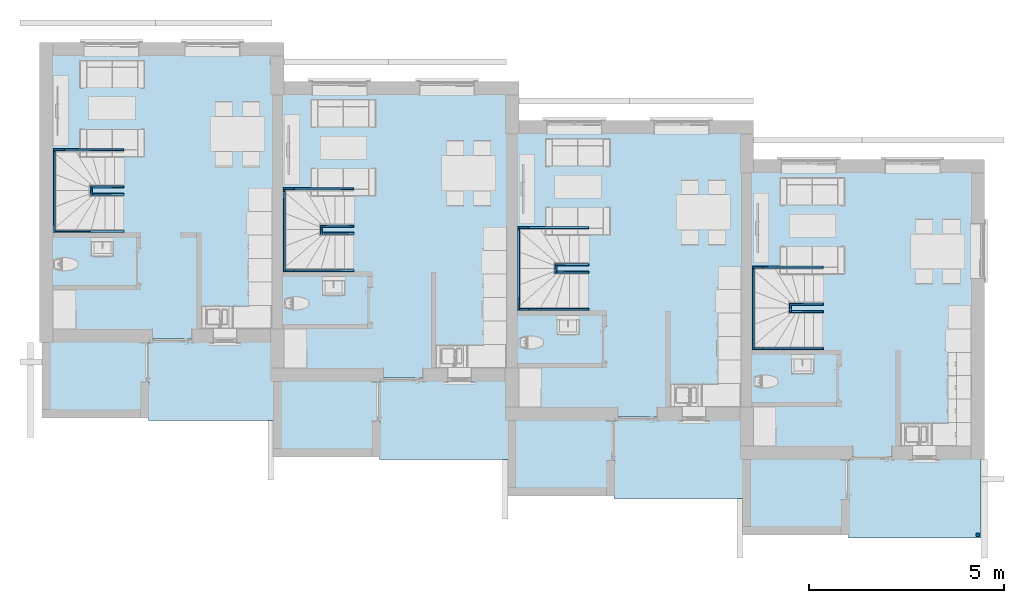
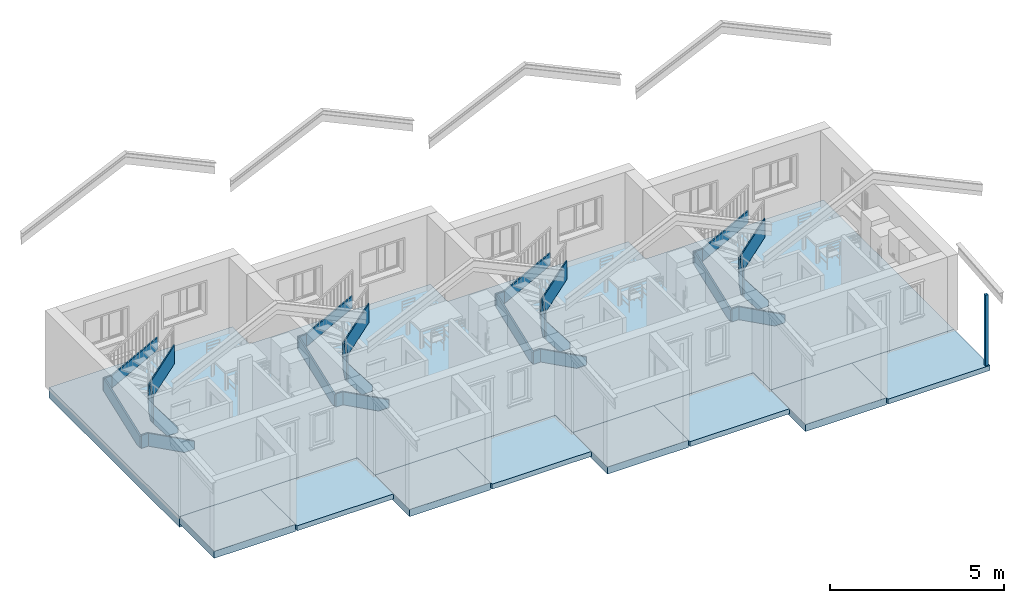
# One storey, part 1 of 65: 32 members, 9 slabs, 1 column, 4 elements without a shape of their own.
"""IFC2X3 building model written with IfcOpenShell, lengths in millimetres."""

import ifcopenshell
import ifcopenshell.guid

model = None  # the IFC model being written
_history = None  # IfcOwnerHistory: only IFC2X3 demands one
_inside = {}  # id of a spatial element -> (the spatial element, [elements in it])
_under = {}  # id of a project, library or spatial element -> (it, [spatial elements below it])
_declared = {}  # id of a project -> (the project, [libraries it declares])
_typed = {}  # id of a type object -> (the type object, [elements of that type])
_made_of = {}  # id of a material, layer set ... -> (it, [elements and type objects made of it])


def new_model(schema):
    """Start an empty IFC model of exactly this schema.

    Asked for "IFC4X3", IfcOpenShell would pick the latest addendum, in which some entities
    have other attributes; the version numbers below select the first issue.
    IFC2X3 requires an IfcOwnerHistory on every rooted entity: one is made here for all.
    """
    global model, _history
    if schema == "IFC4X3":
        model = ifcopenshell.file(schema_version=(4, 3, 0, 0))
    else:
        model = ifcopenshell.file(schema=schema)
    _inside.clear()
    _under.clear()
    _declared.clear()
    _typed.clear()
    _made_of.clear()
    _history = None
    if model.schema == "IFC2X3":
        org = make("IfcOrganization", Name="unknown")
        user = make(
            "IfcPersonAndOrganization",
            ThePerson=make("IfcPerson", FamilyName="unknown"),
            TheOrganization=org,
        )
        app = make(
            "IfcApplication",
            ApplicationDeveloper=org,
            Version="unknown",
            ApplicationFullName="unknown",
            ApplicationIdentifier="unknown",
        )
        _history = make(
            "IfcOwnerHistory",
            OwningUser=user,
            OwningApplication=app,
            ChangeAction="ADDED",
            CreationDate=0,
        )
    return model


def make(cls, **values):
    """One entity of the class cls with the attributes given. An attribute that is None is left unset."""
    return model.create_entity(
        cls, **{name: value for name, value in values.items() if value is not None}
    )


def entity(cls, *values):
    """Any entity or typed value of the class cls, its attributes in the order of the schema. None: left unset."""
    e = model.create_entity(cls)
    for i, value in enumerate(values):
        if value is not None:
            e[i] = value
    return e


def rooted(cls, **values):
    """An entity with a GlobalId (a new one), such as an element, a storey or a relation."""
    return make(cls, GlobalId=ifcopenshell.guid.new(), OwnerHistory=_history, **values)


def si_unit(unit_type, name, prefix=None):
    """IfcSIUnit, for example si_unit("LENGTHUNIT", "METRE", prefix="MILLI")."""
    return make("IfcSIUnit", UnitType=unit_type, Prefix=prefix, Name=name)


def converted_unit(unit_type, name, factor, base, dimensions=None, offset=None):
    """IfcConversionBasedUnit, such as the inch: factor (a typed value) times the base unit."""
    return make(
        "IfcConversionBasedUnit"
        if offset is None
        else "IfcConversionBasedUnitWithOffset",
        ConversionOffset=offset,
        Dimensions=None
        if dimensions is None
        else entity("IfcDimensionalExponents", *dimensions),
        UnitType=unit_type,
        Name=name,
        ConversionFactor=make(
            "IfcMeasureWithUnit", ValueComponent=factor, UnitComponent=base
        ),
    )


def assignment(units):
    """IfcUnitAssignment: the units of a project."""
    return None if units is None else make("IfcUnitAssignment", Units=units)


def point(xyz):
    """IfcCartesianPoint."""
    return None if xyz is None else make("IfcCartesianPoint", Coordinates=xyz)


def direction(xyz):
    """IfcDirection."""
    return None if xyz is None else make("IfcDirection", DirectionRatios=xyz)


def frame(location, z_axis=None, x_axis=None):
    """IfcAxis2Placement3D, a coordinate frame: its origin and axes. An axis left out is left unset."""
    return make(
        "IfcAxis2Placement3D",
        Location=point(location),
        Axis=direction(z_axis),
        RefDirection=direction(x_axis),
    )


def frame_2d(location, x_axis=None):
    """IfcAxis2Placement2D, a coordinate frame in the plane: its origin and x axis."""
    return make(
        "IfcAxis2Placement2D", Location=point(location), RefDirection=direction(x_axis)
    )


def origin():
    """The frame at (0, 0, 0) with its axes left unset."""
    return frame((0.0, 0.0, 0.0))


def place(relative_to, where):
    """IfcLocalPlacement: puts the frame where relative to a parent placement (None: the world)."""
    return make(
        "IfcLocalPlacement", PlacementRelTo=relative_to, RelativePlacement=where
    )


def context(
    kind, dimensions, precision=None, world=None, true_north=None, identifier=None
):
    """IfcGeometricRepresentationContext, for example the 3D "Model" context."""
    return make(
        "IfcGeometricRepresentationContext",
        ContextIdentifier=identifier,
        ContextType=kind,
        CoordinateSpaceDimension=dimensions,
        Precision=precision,
        WorldCoordinateSystem=world,
        TrueNorth=true_north,
    )


def subcontext(parent, identifier, kind, view, scale=None):
    """IfcGeometricRepresentationSubContext, for example "Body" below "Model"."""
    return make(
        "IfcGeometricRepresentationSubContext",
        ContextIdentifier=identifier,
        ContextType=kind,
        ParentContext=parent,
        TargetScale=scale,
        TargetView=view,
    )


def project(units=None, contexts=None):
    """IfcProject with its units and contexts."""
    return rooted(
        "IfcProject",
        Name="project",
        RepresentationContexts=contexts,
        UnitsInContext=assignment(units),
    )


def spatial(cls, under=None, at=None, **own):
    """A site, building, storey or space (cls), placed at a placement, below another one or the project."""
    s = rooted(cls, ObjectPlacement=at, **own)
    if under is not None:
        _under.setdefault(under.id(), (under, []))[1].append(s)
    return s


def polyline(points):
    """IfcPolyline through the points."""
    return make("IfcPolyline", Points=[point(p) for p in points])


def profile(cls, at=None, kind="AREA", **sizes):
    """A parametric profile (cls). Its sizes go by their IFC names, for example OverallWidth=200.0."""
    return make(cls, ProfileType=kind, Position=at, **sizes)


def rectangle(**sizes):
    """IfcRectangleProfileDef."""
    return profile("IfcRectangleProfileDef", **sizes)


def outline(outer, holes=None, kind="AREA"):
    """IfcArbitraryClosedProfileDef: a profile drawn as a closed curve; with holes, ...WithVoids."""
    if holes is None:
        return make("IfcArbitraryClosedProfileDef", ProfileType=kind, OuterCurve=outer)
    return make(
        "IfcArbitraryProfileDefWithVoids",
        ProfileType=kind,
        OuterCurve=outer,
        InnerCurves=holes,
    )


def extrude(swept, where, along, depth):
    """IfcExtrudedAreaSolid: the profile swept, set in the frame where, extruded along a direction by depth."""
    return make(
        "IfcExtrudedAreaSolid",
        SweptArea=swept,
        Position=where,
        ExtrudedDirection=direction(along),
        Depth=depth,
    )


def shape(context_of_items, identifier, shape_type, items):
    """IfcShapeRepresentation: the items that make up one representation, for example the "Body"."""
    return make(
        "IfcShapeRepresentation",
        ContextOfItems=context_of_items,
        RepresentationIdentifier=identifier,
        RepresentationType=shape_type,
        Items=items,
    )


def source(mapping_origin, context_of_items, identifier, shape_type, items):
    """IfcRepresentationMap: a shape defined once, which mapped items show again and again."""
    return make(
        "IfcRepresentationMap",
        MappingOrigin=mapping_origin,
        MappedRepresentation=shape(context_of_items, identifier, shape_type, items),
    )


def transform(
    local_origin,
    x_axis=None,
    y_axis=None,
    z_axis=None,
    scale=None,
    scale2=None,
    scale3=None,
    uniform=True,
):
    """IfcCartesianTransformationOperator3D, or its non-uniform kind. x_axis, y_axis, z_axis: its Axis1, 2, 3."""
    if uniform:
        return make(
            "IfcCartesianTransformationOperator3D",
            Axis1=direction(x_axis),
            Axis2=direction(y_axis),
            LocalOrigin=point(local_origin),
            Scale=scale,
            Axis3=direction(z_axis),
        )
    return make(
        "IfcCartesianTransformationOperator3DnonUniform",
        Axis1=direction(x_axis),
        Axis2=direction(y_axis),
        LocalOrigin=point(local_origin),
        Scale=scale,
        Axis3=direction(z_axis),
        Scale2=scale2,
        Scale3=scale3,
    )


def mapped(mapping_source, mapping_target):
    """IfcMappedItem: shows the shape of a source again, moved by a transform."""
    return make(
        "IfcMappedItem", MappingSource=mapping_source, MappingTarget=mapping_target
    )


def material(Name=None, Category=None):
    """IfcMaterial."""
    return make("IfcMaterial", Name=Name, Category=Category)


def layer(
    of_material, thickness, ventilated=None, Name=None, Category=None, Priority=None
):
    """IfcMaterialLayer: one layer of a wall or slab, of a material (None: an air gap)."""
    return make(
        "IfcMaterialLayer",
        Material=of_material,
        LayerThickness=thickness,
        IsVentilated=ventilated,
        Name=Name,
        Category=Category,
        Priority=Priority,
    )


def layer_set(layers, Name=None):
    """IfcMaterialLayerSet."""
    return make("IfcMaterialLayerSet", MaterialLayers=layers, LayerSetName=Name)


def layer_usage(for_layer_set, set_direction, sense, offset, extent=None):
    """IfcMaterialLayerSetUsage: how a layer set lies in its element."""
    return make(
        "IfcMaterialLayerSetUsage",
        ForLayerSet=for_layer_set,
        LayerSetDirection=set_direction,
        DirectionSense=sense,
        OffsetFromReferenceLine=offset,
        ReferenceExtent=extent,
    )


def made_of(thing, what):
    """Note that an element or type object is made of a material, layer set ...; save() writes the relation."""
    if what is not None:
        _made_of.setdefault(what.id(), (what, []))[1].append(thing)
    return thing


def type_object(cls, material=None, **own):
    """A type object (cls), such as IfcWallType, which elements share."""
    return made_of(rooted(cls, **own), material)


def type_shapes(of_type, sources):
    """Give a type object the sources (RepresentationMaps) that its elements show as mapped items."""
    of_type.RepresentationMaps = sources


def element(
    cls,
    number,
    at=None,
    inside=None,
    cuts=None,
    type_object=None,
    material=None,
    context=None,
    identifier="Body",
    shape_type=None,
    held_by="IfcProductDefinitionShape",
    body=None,
    shapes=None,
    **own,
):
    """One element of the class cls, such as IfcWall. Its Tag is "e" and its number.

    at: its placement. inside: the storey or other place that contains it. cuts: it is an
    opening in that element (IfcRelVoidsElement). A single representation is given by context,
    identifier, shape_type and body (its items); several are given by shapes. held_by: the class
    of the entity that holds the representations. save() writes the other relations.
    """
    e = rooted(cls, Tag="e%d" % number, ObjectPlacement=at, **own)
    if body is not None:
        shapes = [shape(context, identifier, shape_type, body)]
    if shapes is not None:
        e.Representation = make(held_by, Representations=shapes)
    if inside is not None:
        _inside.setdefault(inside.id(), (inside, []))[1].append(e)
    if cuts is not None:
        rooted(
            "IfcRelVoidsElement", RelatingBuildingElement=cuts, RelatedOpeningElement=e
        )
    if type_object is not None:
        _typed.setdefault(type_object.id(), (type_object, []))[1].append(e)
    return made_of(e, material)


def aggregate(whole, parts):
    """IfcRelAggregates: a whole, such as a stair, and the parts it consists of."""
    return rooted("IfcRelAggregates", RelatingObject=whole, RelatedObjects=parts)


def save(model, path):
    """Write the relations noted so far, then the file.

    IfcRelAggregates (storeys below a building ...), IfcRelContainedInSpatialStructure (elements
    in a storey), IfcRelDefinesByType, IfcRelAssociatesMaterial and IfcRelDeclares: one each for
    every whole, place, type object, material and project.
    """
    for whole, parts in _under.values():
        aggregate(whole, parts)
    for where, things in _inside.values():
        rooted(
            "IfcRelContainedInSpatialStructure",
            RelatedElements=things,
            RelatingStructure=where,
        )
    for kind, things in _typed.values():
        rooted("IfcRelDefinesByType", RelatedObjects=things, RelatingType=kind)
    for what, things in _made_of.values():
        rooted("IfcRelAssociatesMaterial", RelatedObjects=things, RelatingMaterial=what)
    for by, libraries in _declared.values():
        rooted("IfcRelDeclares", RelatingContext=by, RelatedDefinitions=libraries)
    model.write(path)


model = new_model("IFC2X3")

# Units and contexts
model_context = context("Model", 3, precision=0.01, world=origin(), true_north=direction((0.0, 1.0)))
body_context = subcontext(model_context, "Body", "Model", "MODEL_VIEW")
ifc_project = project(units=[si_unit("LENGTHUNIT", "METRE", prefix="MILLI"), si_unit("AREAUNIT", "SQUARE_METRE"), si_unit("VOLUMEUNIT", "CUBIC_METRE"), converted_unit("PLANEANGLEUNIT", "DEGREE", entity("IfcPlaneAngleMeasure", 0.017453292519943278), si_unit("PLANEANGLEUNIT", "RADIAN"), dimensions=[0, 0, 0, 0, 0, 0, 0])], contexts=[model_context])

# Site, building, storey
site_placement = place(None, origin())
site = spatial("IfcSite", under=ifc_project, at=site_placement, Name="Default", CompositionType="ELEMENT")
building_placement = place(site_placement, origin())
building = spatial("IfcBuilding", under=site, at=building_placement, CompositionType="ELEMENT")
storey_placement = place(building_placement, origin())
storey = spatial("IfcBuildingStorey", under=building, at=storey_placement, Name="Et. 1", CompositionType="ELEMENT", Elevation=0.0)

# Column
ifc_material_1 = material(Name="Limtre - GL30c")
column_type = type_object("IfcColumnType", Name="Limtre-søyle:Limtre 90x90", PredefinedType="COLUMN", material=ifc_material_1)
shared_shape = source(origin(), body_context, "Body", "SweptSolid", [
    extrude(rectangle(XDim=90.0000000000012, YDim=90.00000000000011, at=frame_2d((-2.1671553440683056e-12, 5.400124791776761e-13), x_axis=(1.0, 0.0))), frame((34092.00958675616, 6486.180957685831, 0.0), z_axis=(0.0, 0.0, 1.0), x_axis=(-1.0, 0.0, 0.0)), (0.0, 0.0, 1.0), 2485.549410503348),
])
type_shapes(column_type, [shared_shape])
column_placement = place(storey_placement, origin())
element("IfcColumn", 1, at=column_placement, inside=storey, type_object=column_type, material=ifc_material_1, Name="Limtre-søyle:Limtre 90x90", context=body_context, shape_type="MappedRepresentation", body=[
    mapped(shared_shape, transform((0.0, 0.0, 0.0), scale=1.0)),
])

# Stair, members
type_product = type_object("IfcTypeProduct", Name="Assembled Stair:Tretrapp - Åpne trinn m/ vanger")
stair_1_placement = place(storey_placement, origin())
stair_1 = element("IfcStair", 2, at=stair_1_placement, inside=storey, type_object=type_product, Name="Assembled Stair:Stair", ShapeType="NOTDEFINED")
ifc_material_2 = material(Name="Focus - Tre")
member_type = type_object("IfcMemberType", Name="Stringer:Vange - Tre 50mm bredde", PredefinedType="STRINGER")
member_1_placement = place(stair_1_placement, origin())
member_1 = element("IfcMember", 3, at=member_1_placement, type_object=member_type, material=ifc_material_2, Name="Assembled Stair:Stair:1057884 Stringer 1", context=body_context, shape_type="SweptSolid", body=[
    extrude(outline(polyline([(-679.0776310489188, -400.4234898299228), (-341.72465110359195, -400.4234898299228), (849.9399566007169, 237.2278547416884), (849.9399566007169, 690.8928373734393), (-679.0776310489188, -127.27371245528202), (-679.0776310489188, -400.4234898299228)])), frame((11569.284130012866, 14220.151787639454, 400.4234898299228), z_axis=(0.0, 1.0, 0.0), x_axis=(-1.0, 0.0, 0.0)), (0.0, 0.0, 1.0), 49.99999999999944),
])
member_2_placement = place(stair_1_placement, origin())
member_2 = element("IfcMember", 4, at=member_2_placement, type_object=member_type, material=ifc_material_2, Name="Assembled Stair:Stair:1057884 Stringer 2", context=body_context, shape_type="SweptSolid", body=[
    extrude(rectangle(XDim=231.47571750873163, YDim=49.99999999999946, at=frame_2d((0.0, -1.0835776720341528e-12), x_axis=(1.0, 0.0))), frame((10603.606314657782, 14245.151787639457, 637.6513445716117), z_axis=(0.0, 0.0, 1.0), x_axis=(-1.0, 0.0, 0.0)), (0.0, 0.0, 1.0), 453.66498263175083),
])
member_3_placement = place(stair_1_placement, origin())
member_3 = element("IfcMember", 5, at=member_3_placement, type_object=member_type, material=ifc_material_2, Name="Assembled Stair:Stair:1057884 Stringer 3", context=body_context, shape_type="SweptSolid", body=[
    extrude(outline(polyline([(-1071.253457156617, -566.1425631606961), (-878.205088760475, -566.1425631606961), (1018.7465428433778, 145.50397643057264), (1018.7465428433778, 585.8406742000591), (983.2189173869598, 585.8406742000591), (-1071.253457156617, -184.90019850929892), (-1071.253457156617, -566.1425631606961)])), frame((10437.868455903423, 15291.405244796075, 1257.4588903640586), z_axis=(1.0, 0.0, 0.0), x_axis=(0.0, 1.0, 0.0)), (0.0, 0.0, 1.0), 49.99999999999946),
])
member_4_placement = place(stair_1_placement, origin())
member_4 = element("IfcMember", 6, at=member_4_placement, type_object=member_type, material=ifc_material_2, Name="Assembled Stair:Stair:1057884 Stringer 4", context=body_context, shape_type="SweptSolid", body=[
    extrude(rectangle(XDim=281.4757175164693, YDim=49.99999999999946, at=frame_2d((0.0, -1.0835776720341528e-12), x_axis=(1.0, 0.0))), frame((10578.606314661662, 16335.151787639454, 1416.0779258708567)), (0.0, 0.0, 1.0), 427.221638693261),
])
member_5_placement = place(stair_1_placement, origin())
member_5 = element("IfcMember", 7, at=member_5_placement, type_object=member_type, material=ifc_material_2, Name="Assembled Stair:Stair:1057884 Stringer 5", context=body_context, shape_type="SweptSolid", body=[
    extrude(outline(polyline([(-766.2965070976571, -188.34234735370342), (967.8578360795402, -188.34234735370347), (766.2965070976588, 188.34234735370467), (-967.8578360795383, 188.34234735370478), (-766.2965070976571, -188.34234735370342)])), frame((11483.852967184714, 16310.151787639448, 2038.7720200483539), z_axis=(0.0, 1.0, 0.0), x_axis=(0.8817079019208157, 0.0, 0.471795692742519)), (0.0, 0.0, 1.0), 50.00000000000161),
])
member_6_placement = place(stair_1_placement, origin())
member_6 = element("IfcMember", 8, at=member_6_placement, type_object=member_type, material=ifc_material_2, Name="Assembled Stair:Stair:1057884 Stringer 6", context=body_context, shape_type="SweptSolid", body=[
    extrude(outline(polyline([(-394.2069615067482, -408.97376314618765), (-44.15876428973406, -408.97376314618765), (416.2863436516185, 186.04004777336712), (416.2863436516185, 839.6369122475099), (-394.2069615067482, -207.72943372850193), (-394.2069615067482, -408.97376314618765)])), frame((11854.154799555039, 15170.151787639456, 408.97376314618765), z_axis=(0.0, 1.0, 0.0), x_axis=(-1.0, 0.0, 0.0)), (0.0, 0.0, 1.0), 49.99999999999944),
])
member_7_placement = place(stair_1_placement, origin())
member_7 = element("IfcMember", 9, at=member_7_placement, type_object=member_type, material=ifc_material_2, Name="Assembled Stair:Stair:1057884 Stringer 7", context=body_context, shape_type="SweptSolid", body=[
    extrude(outline(polyline([(-99.5318885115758, -586.1110865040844), (-15.956236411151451, -586.1110865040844), (90.46811148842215, -321.9224969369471), (90.46811148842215, 608.6110737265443), (34.08379045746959, 608.6110737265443), (-99.5318885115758, 276.9225224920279), (-99.5318885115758, -586.1110865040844)])), frame((11387.868455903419, 15269.683676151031, 1245.7377905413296), z_axis=(1.0, 0.0, 0.0), x_axis=(0.0, 1.0, 0.0)), (0.0, 0.0, 1.0), 49.99999999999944),
])
member_8_placement = place(stair_1_placement, origin())
member_8 = element("IfcMember", 10, at=member_8_placement, type_object=member_type, material=ifc_material_2, Name="Assembled Stair:Stair:1057884 Stringer 8", context=body_context, shape_type="SweptSolid", body=[
    extrude(outline(polyline([(-444.5680851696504, -200.0), (961.47123022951, -200.0), (444.56808516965, 200.0), (-961.4712302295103, 200.0), (-444.5680851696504, -200.0)])), frame((11818.115108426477, 15360.151787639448, 2083.540051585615), z_axis=(0.0, 1.0, 0.0), x_axis=(0.6119980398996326, 0.0, 0.7908592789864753)), (0.0, 0.0, 1.0), 49.99999999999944),
])
aggregate(stair_1, [member_1, member_2, member_3, member_4, member_5, member_6, member_7, member_8])

stair_2_placement = place(storey_placement, origin())
stair_2 = element("IfcStair", 11, at=stair_2_placement, inside=storey, type_object=type_product, Name="Assembled Stair:Stair", ShapeType="NOTDEFINED")
member_9_placement = place(stair_2_placement, origin())
member_9 = element("IfcMember", 12, at=member_9_placement, type_object=member_type, material=ifc_material_2, Name="Assembled Stair:Stair:1075790 Stringer 1", context=body_context, shape_type="SweptSolid", body=[
    extrude(outline(polyline([(-679.0776310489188, -400.42348982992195), (-341.72465110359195, -400.42348982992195), (849.939956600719, 237.22785474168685), (849.939956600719, 690.8928373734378), (-679.0776310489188, -127.27371245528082), (-679.0776310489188, -400.42348982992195)])), frame((17455.47308136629, 13220.151787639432, 400.42348982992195), z_axis=(0.0, 1.0, 0.0), x_axis=(-1.0, 0.0, 0.0)), (0.0, 0.0, 1.0), 49.99999999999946),
])
member_10_placement = place(stair_2_placement, origin())
member_10 = element("IfcMember", 13, at=member_10_placement, type_object=member_type, material=ifc_material_2, Name="Assembled Stair:Stair:1075790 Stringer 2", context=body_context, shape_type="SweptSolid", body=[
    extrude(rectangle(XDim=231.47571750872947, YDim=49.99999999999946, at=frame_2d((-1.0800249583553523e-12, -1.0835776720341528e-12), x_axis=(1.0, 0.0))), frame((16489.795266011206, 13245.151787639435, 637.651344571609), z_axis=(0.0, 0.0, 1.0), x_axis=(-1.0, 0.0, 0.0)), (0.0, 0.0, 1.0), 453.6649826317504),
])
member_11_placement = place(stair_2_placement, origin())
member_11 = element("IfcMember", 14, at=member_11_placement, type_object=member_type, material=ifc_material_2, Name="Assembled Stair:Stair:1075790 Stringer 3", context=body_context, shape_type="SweptSolid", body=[
    extrude(outline(polyline([(-1071.253457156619, -566.142563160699), (-878.2050887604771, -566.142563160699), (1018.7465428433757, 145.50397643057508), (1018.7465428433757, 585.8406742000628), (983.218917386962, 585.8406742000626), (-1071.253457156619, -184.9001985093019), (-1071.253457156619, -566.142563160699)])), frame((16324.057407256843, 14291.405244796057, 1257.4588903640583), z_axis=(1.0, 0.0, 0.0), x_axis=(0.0, 1.0, 0.0)), (0.0, 0.0, 1.0), 49.99999999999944),
])
member_12_placement = place(stair_2_placement, origin())
member_12 = element("IfcMember", 15, at=member_12_placement, type_object=member_type, material=ifc_material_2, Name="Assembled Stair:Stair:1075790 Stringer 4", context=body_context, shape_type="SweptSolid", body=[
    extrude(rectangle(XDim=281.4757175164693, YDim=49.99999999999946, at=frame_2d((0.0, 1.0835776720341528e-12), x_axis=(1.0, 0.0))), frame((16464.795266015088, 15335.15178763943, 1416.0779258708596)), (0.0, 0.0, 1.0), 427.2216386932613),
])
member_13_placement = place(stair_2_placement, origin())
member_13 = element("IfcMember", 16, at=member_13_placement, type_object=member_type, material=ifc_material_2, Name="Assembled Stair:Stair:1075790 Stringer 5", context=body_context, shape_type="SweptSolid", body=[
    extrude(outline(polyline([(-766.2965070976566, -188.34234735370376), (967.8578360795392, -188.34234735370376), (766.2965070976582, 188.34234735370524), (-967.8578360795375, 188.34234735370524), (-766.2965070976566, -188.34234735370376)])), frame((17370.04191853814, 15310.15178763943, 2038.7720200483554), z_axis=(0.0, 1.0, 0.0), x_axis=(0.8817079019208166, 0.0, 0.47179569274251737)), (0.0, 0.0, 1.0), 49.99999999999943),
])
member_14_placement = place(stair_2_placement, origin())
member_14 = element("IfcMember", 17, at=member_14_placement, type_object=member_type, material=ifc_material_2, Name="Assembled Stair:Stair:1075790 Stringer 6", context=body_context, shape_type="SweptSolid", body=[
    extrude(outline(polyline([(-394.2069615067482, -408.9737631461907), (-44.15876428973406, -408.9737631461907), (416.2863436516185, 186.04004777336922), (416.2863436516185, 839.636912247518), (-394.2069615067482, -207.72943372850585), (-394.2069615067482, -408.9737631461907)])), frame((17740.343750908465, 14170.15178763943, 408.9737631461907), z_axis=(0.0, 1.0, 0.0), x_axis=(-1.0, 0.0, 0.0)), (0.0, 0.0, 1.0), 49.99999999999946),
])
member_15_placement = place(stair_2_placement, origin())
member_15 = element("IfcMember", 18, at=member_15_placement, type_object=member_type, material=ifc_material_2, Name="Assembled Stair:Stair:1075790 Stringer 7", context=body_context, shape_type="SweptSolid", body=[
    extrude(outline(polyline([(-99.5318885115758, -586.1110865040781), (-15.956236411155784, -586.1110865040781), (90.46811148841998, -321.9224969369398), (90.46811148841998, 608.6110737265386), (34.08379045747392, 608.6110737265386), (-99.5318885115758, 276.92252249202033), (-99.5318885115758, -586.1110865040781)])), frame((17274.057407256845, 14269.68367615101, 1245.7377905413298), z_axis=(1.0, 0.0, 0.0), x_axis=(0.0, 1.0, 0.0)), (0.0, 0.0, 1.0), 49.99999999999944),
])
member_16_placement = place(stair_2_placement, origin())
member_16 = element("IfcMember", 19, at=member_16_placement, type_object=member_type, material=ifc_material_2, Name="Assembled Stair:Stair:1075790 Stringer 8", context=body_context, shape_type="SweptSolid", body=[
    extrude(outline(polyline([(-444.5680851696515, -200.0), (961.4712302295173, -200.0), (444.5680851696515, 200.0), (-961.4712302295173, 200.0), (-444.5680851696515, -200.0)])), frame((17704.3040597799, 14360.151787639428, 2083.540051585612), z_axis=(0.0, 1.0, 0.0), x_axis=(0.6119980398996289, 0.0, 0.7908592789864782)), (0.0, 0.0, 1.0), 49.99999999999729),
])
aggregate(stair_2, [member_9, member_10, member_11, member_12, member_13, member_14, member_15, member_16])

stair_3_placement = place(storey_placement, origin())
stair_3 = element("IfcStair", 20, at=stair_3_placement, inside=storey, type_object=type_product, Name="Assembled Stair:Stair", ShapeType="NOTDEFINED")
member_17_placement = place(stair_3_placement, origin())
member_17 = element("IfcMember", 21, at=member_17_placement, type_object=member_type, material=ifc_material_2, Name="Assembled Stair:Stair:1075997 Stringer 1", context=body_context, shape_type="SweptSolid", body=[
    extrude(outline(polyline([(-679.0776310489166, -400.4234898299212), (-341.7246511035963, -400.4234898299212), (849.9399566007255, 237.22785474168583), (849.9399566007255, 690.8928373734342), (-679.0776310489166, -127.27371245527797), (-679.0776310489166, -400.4234898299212)])), frame((23456.065132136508, 12231.445077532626, 400.4234898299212), z_axis=(0.0, 1.0, 0.0), x_axis=(-1.0, 0.0, 0.0)), (0.0, 0.0, 1.0), 49.99999999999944),
])
member_18_placement = place(stair_3_placement, origin())
member_18 = element("IfcMember", 22, at=member_18_placement, type_object=member_type, material=ifc_material_2, Name="Assembled Stair:Stair:1075997 Stringer 2", context=body_context, shape_type="SweptSolid", body=[
    extrude(rectangle(XDim=231.475717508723, YDim=49.99999999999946, at=frame_2d((4.334310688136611e-12, -1.0835776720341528e-12), x_axis=(1.0, 0.0))), frame((22490.38731678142, 12256.445077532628, 637.6513445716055), z_axis=(0.0, 0.0, 1.0), x_axis=(-1.0, 0.0, 0.0)), (0.0, 0.0, 1.0), 453.6649826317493),
])
member_19_placement = place(stair_3_placement, origin())
member_19 = element("IfcMember", 23, at=member_19_placement, type_object=member_type, material=ifc_material_2, Name="Assembled Stair:Stair:1075997 Stringer 3", context=body_context, shape_type="SweptSolid", body=[
    extrude(outline(polyline([(-1071.253457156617, -566.1425631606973), (-878.2050887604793, -566.1425631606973), (1018.7465428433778, 145.50397643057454), (1018.7465428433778, 585.8406742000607), (983.2189173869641, 585.8406742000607), (-1071.253457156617, -184.90019850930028), (-1071.253457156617, -566.1425631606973)])), frame((22324.64945802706, 13302.698534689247, 1257.4588903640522), z_axis=(1.0, 0.0, 0.0), x_axis=(0.0, 1.0, 0.0)), (0.0, 0.0, 1.0), 50.00000000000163),
])
member_20_placement = place(stair_3_placement, origin())
member_20 = element("IfcMember", 24, at=member_20_placement, type_object=member_type, material=ifc_material_2, Name="Assembled Stair:Stair:1075997 Stringer 4", context=body_context, shape_type="SweptSolid", body=[
    extrude(rectangle(XDim=281.4757175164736, YDim=49.99999999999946, at=frame_2d((-2.1600499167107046e-12, -1.0835776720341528e-12), x_axis=(1.0, 0.0))), frame((22465.387316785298, 14346.445077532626, 1416.077925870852)), (0.0, 0.0, 1.0), 427.221638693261),
])
member_21_placement = place(stair_3_placement, origin())
member_21 = element("IfcMember", 25, at=member_21_placement, type_object=member_type, material=ifc_material_2, Name="Assembled Stair:Stair:1075997 Stringer 5", context=body_context, shape_type="SweptSolid", body=[
    extrude(outline(polyline([(-766.2965070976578, -188.34234735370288), (967.8578360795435, -188.34234735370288), (766.2965070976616, 188.3423473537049), (-967.8578360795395, 188.34234735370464), (-766.2965070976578, -188.34234735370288)])), frame((23370.63396930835, 14321.445077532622, 2038.7720200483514), z_axis=(0.0, 1.0, 0.0), x_axis=(0.8817079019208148, 0.0, 0.4717956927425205)), (0.0, 0.0, 1.0), 49.99999999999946),
])
member_22_placement = place(stair_3_placement, origin())
member_22 = element("IfcMember", 26, at=member_22_placement, type_object=member_type, material=ifc_material_2, Name="Assembled Stair:Stair:1075997 Stringer 6", context=body_context, shape_type="SweptSolid", body=[
    extrude(outline(polyline([(-394.2069615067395, -408.97376314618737), (-44.158764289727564, -408.97376314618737), (416.2863436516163, 186.04004777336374), (416.2863436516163, 839.6369122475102), (-394.2069615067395, -207.72943372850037), (-394.2069615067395, -408.97376314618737)])), frame((23740.935801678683, 13181.445077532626, 408.97376314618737), z_axis=(0.0, 1.0, 0.0), x_axis=(-1.0, 0.0, 0.0)), (0.0, 0.0, 1.0), 49.99999999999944),
])
member_23_placement = place(stair_3_placement, origin())
member_23 = element("IfcMember", 27, at=member_23_placement, type_object=member_type, material=ifc_material_2, Name="Assembled Stair:Stair:1075997 Stringer 7", context=body_context, shape_type="SweptSolid", body=[
    extrude(outline(polyline([(-99.53188851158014, -586.1110865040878), (-15.956236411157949, -586.1110865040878), (90.46811148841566, -321.922496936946), (90.46811148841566, 608.6110737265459), (34.08379045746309, 608.6110737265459), (-99.53188851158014, 276.92252249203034), (-99.53188851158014, -586.1110865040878)])), frame((23274.649458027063, 13280.976966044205, 1245.7377905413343), z_axis=(1.0, 0.0, 0.0), x_axis=(0.0, 1.0, 0.0)), (0.0, 0.0, 1.0), 50.00000000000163),
])
member_24_placement = place(stair_3_placement, origin())
member_24 = element("IfcMember", 28, at=member_24_placement, type_object=member_type, material=ifc_material_2, Name="Assembled Stair:Stair:1075997 Stringer 8", context=body_context, shape_type="SweptSolid", body=[
    extrude(outline(polyline([(-444.5680851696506, -200.0), (961.4712302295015, -200.0), (444.5680851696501, 200.0), (-961.4712302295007, 200.0), (-444.5680851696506, -200.0)])), frame((23704.89611055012, 13371.445077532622, 2083.540051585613), z_axis=(0.0, 1.0, 0.0), x_axis=(0.6119980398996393, 0.0, 0.7908592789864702)), (0.0, 0.0, 1.0), 49.999999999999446),
])
aggregate(stair_3, [member_17, member_18, member_19, member_20, member_21, member_22, member_23, member_24])

stair_4_placement = place(storey_placement, origin())
stair_4 = element("IfcStair", 29, at=stair_4_placement, inside=storey, type_object=type_product, Name="Assembled Stair:Stair", ShapeType="NOTDEFINED")
member_25_placement = place(stair_4_placement, origin())
member_25 = element("IfcMember", 30, at=member_25_placement, type_object=member_type, material=ifc_material_2, Name="Assembled Stair:Stair:1076204 Stringer 1", context=body_context, shape_type="SweptSolid", body=[
    extrude(outline(polyline([(-679.0776310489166, -400.4234898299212), (-341.72465110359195, -400.4234898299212), (849.9399566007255, 237.22785474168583), (849.9399566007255, 690.8928373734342), (-679.0776310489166, -127.27371245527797), (-679.0776310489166, -400.4234898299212)])), frame((29456.284130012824, 11220.151787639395, 400.4234898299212), z_axis=(0.0, 1.0, 0.0), x_axis=(-1.0, 0.0, 0.0)), (0.0, 0.0, 1.0), 49.99999999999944),
])
member_26_placement = place(stair_4_placement, origin())
member_26 = element("IfcMember", 31, at=member_26_placement, type_object=member_type, material=ifc_material_2, Name="Assembled Stair:Stair:1076204 Stringer 2", context=body_context, shape_type="SweptSolid", body=[
    extrude(rectangle(XDim=231.47571750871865, YDim=49.99999999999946, at=frame_2d((2.1671553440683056e-12, 1.0835776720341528e-12), x_axis=(1.0, 0.0))), frame((28490.606314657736, 11245.151787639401, 637.6513445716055), z_axis=(0.0, 0.0, 1.0), x_axis=(-1.0, 0.0, 0.0)), (0.0, 0.0, 1.0), 453.6649826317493),
])
member_27_placement = place(stair_4_placement, origin())
member_27 = element("IfcMember", 32, at=member_27_placement, type_object=member_type, material=ifc_material_2, Name="Assembled Stair:Stair:1076204 Stringer 3", context=body_context, shape_type="SweptSolid", body=[
    extrude(outline(polyline([(-1071.253457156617, -566.1425631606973), (-878.2050887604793, -566.1425631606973), (1018.7465428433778, 145.50397643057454), (1018.7465428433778, 585.8406742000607), (983.2189173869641, 585.8406742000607), (-1071.253457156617, -184.90019850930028), (-1071.253457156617, -566.1425631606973)])), frame((28324.86845590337, 12291.405244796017, 1257.4588903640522), z_axis=(1.0, 0.0, 0.0), x_axis=(0.0, 1.0, 0.0)), (0.0, 0.0, 1.0), 50.00000000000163),
])
member_28_placement = place(stair_4_placement, origin())
member_28 = element("IfcMember", 33, at=member_28_placement, type_object=member_type, material=ifc_material_2, Name="Assembled Stair:Stair:1076204 Stringer 4", context=body_context, shape_type="SweptSolid", body=[
    extrude(rectangle(XDim=281.47571751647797, YDim=49.99999999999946, at=frame_2d((-4.334310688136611e-12, 1.0835776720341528e-12), x_axis=(1.0, 0.0))), frame((28465.606314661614, 13335.151787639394, 1416.077925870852)), (0.0, 0.0, 1.0), 427.221638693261),
])
member_29_placement = place(stair_4_placement, origin())
member_29 = element("IfcMember", 34, at=member_29_placement, type_object=member_type, material=ifc_material_2, Name="Assembled Stair:Stair:1076204 Stringer 5", context=body_context, shape_type="SweptSolid", body=[
    extrude(outline(polyline([(-766.2965070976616, -188.3423473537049), (967.8578360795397, -188.3423473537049), (766.2965070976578, 188.34234735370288), (-967.8578360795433, 188.3423473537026), (-766.2965070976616, -188.3423473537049)])), frame((29370.852967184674, 13310.15178763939, 2038.7720200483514), z_axis=(0.0, 1.0, 0.0), x_axis=(0.8817079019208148, 0.0, 0.4717956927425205)), (0.0, 0.0, 1.0), 49.99999999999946),
])
member_30_placement = place(stair_4_placement, origin())
member_30 = element("IfcMember", 35, at=member_30_placement, type_object=member_type, material=ifc_material_2, Name="Assembled Stair:Stair:1076204 Stringer 6", context=body_context, shape_type="SweptSolid", body=[
    extrude(outline(polyline([(-394.2069615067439, -408.9737631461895), (-44.15876428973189, -408.9737631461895), (416.2863436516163, 186.04004777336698), (416.2863436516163, 839.6369122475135), (-394.2069615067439, -207.72943372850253), (-394.2069615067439, -408.9737631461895)])), frame((29741.154799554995, 12170.151787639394, 408.9737631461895), z_axis=(0.0, 1.0, 0.0), x_axis=(-1.0, 0.0, 0.0)), (0.0, 0.0, 1.0), 49.99999999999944),
])
member_31_placement = place(stair_4_placement, origin())
member_31 = element("IfcMember", 36, at=member_31_placement, type_object=member_type, material=ifc_material_2, Name="Assembled Stair:Stair:1076204 Stringer 7", context=body_context, shape_type="SweptSolid", body=[
    extrude(outline(polyline([(-99.53188851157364, -586.111086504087), (-15.956236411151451, -586.111086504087), (90.46811148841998, -321.9224969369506), (90.46811148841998, 608.6110737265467), (34.08379045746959, 608.6110737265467), (-99.53188851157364, 276.92252249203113), (-99.53188851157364, -586.111086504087)])), frame((29274.868455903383, 12269.68367615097, 1245.7377905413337), z_axis=(1.0, 0.0, 0.0), x_axis=(0.0, 1.0, 0.0)), (0.0, 0.0, 1.0), 50.00000000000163),
])
member_32_placement = place(stair_4_placement, origin())
member_32 = element("IfcMember", 37, at=member_32_placement, type_object=member_type, material=ifc_material_2, Name="Assembled Stair:Stair:1076204 Stringer 8", context=body_context, shape_type="SweptSolid", body=[
    extrude(outline(polyline([(-444.56808516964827, -200.0), (961.4712302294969, -200.0), (444.56808516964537, 200.0), (-961.4712302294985, 200.0), (-444.56808516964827, -200.0)])), frame((29705.11510842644, 12360.15178763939, 2083.540051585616), z_axis=(0.0, 1.0, 0.0), x_axis=(0.6119980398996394, 0.0, 0.7908592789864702)), (0.0, 0.0, 1.0), 49.999999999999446),
])
aggregate(stair_4, [member_25, member_26, member_27, member_28, member_29, member_30, member_31, member_32])

# Slabs
ifc_material_3 = material(Name="Dekke - Spon")
ifc_layer_1 = layer(ifc_material_3, 22.0)
ifc_material_4 = material(Name="Dekke - Betong - Plasstøpt - Ubehandlet")
ifc_layer_2 = layer(ifc_material_4, 50.0)
ifc_material_5 = material(Name="Dekke - Hard - Isolasjon")
ifc_layer_3 = layer(ifc_material_5, 200.0)
ifc_material_6 = material(Name="Utendørs - Grus")
ifc_layer_4 = layer(ifc_material_6, 100.0)
ifc_layer_set_1 = layer_set([ifc_layer_1, ifc_layer_2, ifc_layer_3, ifc_layer_4], Name="Floor:25-Gulv på grunn SpBIhGr-22_50_200_100")
ifc_layer_usage_1 = layer_usage(ifc_layer_set_1, "AXIS3", "POSITIVE", 0.0)
slab_type_1 = type_object("IfcSlabType", Name="Floor:25-Gulv på grunn SpBIhGr-22_50_200_100", PredefinedType="FLOOR", material=ifc_layer_set_1)
slab_1_placement = place(storey_placement, origin())
element("IfcSlab", 38, at=slab_1_placement, inside=storey, type_object=slab_type_1, material=ifc_layer_usage_1, Name="Floor:25-Gulv på grunn SpBIhGr-22_50_200_100", PredefinedType="FLOOR", context=body_context, shape_type="SweptSolid", body=[
    extrude(outline(polyline([(-2250.0, -12000.0), (5250.0, -12000.0), (5250.0, -5914.0), (4250.0, -5914.0), (4250.0, 86.0), (3250.0, 86.0), (3250.0, 6086.0), (2250.0, 6086.0), (2250.0, 12000.0), (-5250.0, 12000.0), (-5250.0, 5914.0), (-4250.0, 5914.0), (-4250.0, -86.0), (-3250.0, -86.0), (-3250.0, -6086.0), (-2250.0, -6086.0), (-2250.0, -12000.0)])), frame((22178.009586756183, 13745.180957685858, 0.0), z_axis=(0.0, 0.0, -1.0), x_axis=(0.0, 1.0, 0.0)), (0.0, 0.0, 1.0), 372.00000000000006),
])
ifc_layer_5 = layer(ifc_material_4, 250.00000000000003)
ifc_layer_set_2 = layer_set([ifc_layer_5], Name="Floor:25-B-250")
ifc_layer_usage_2 = layer_usage(ifc_layer_set_2, "AXIS3", "POSITIVE", 0.0)
slab_type_2 = type_object("IfcSlabType", Name="Floor:25-B-250", PredefinedType="FLOOR", material=ifc_layer_set_2)
slab_2_placement = place(storey_placement, origin())
element("IfcSlab", 39, at=slab_2_placement, inside=storey, type_object=slab_type_2, material=ifc_layer_usage_2, Name="Floor:25-B-250", PredefinedType="FLOOR", context=body_context, shape_type="SweptSolid", body=[
    extrude(rectangle(XDim=1999.9999999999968, YDim=2700.000000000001, at=frame_2d((-5.115907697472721e-13, 1.1368683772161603e-12), x_axis=(1.0, 0.0))), frame((11528.009586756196, 10495.180957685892, 0.0), z_axis=(0.0, 0.0, -1.0), x_axis=(0.0, 1.0, 0.0)), (0.0, 0.0, 1.0), 250.00000000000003),
])
ifc_layer_usage_3 = layer_usage(ifc_layer_set_2, "AXIS3", "POSITIVE", 0.0)
slab_3_placement = place(storey_placement, origin())
element("IfcSlab", 40, at=slab_3_placement, inside=storey, type_object=slab_type_2, material=ifc_layer_usage_3, Name="Floor:25-B-250", PredefinedType="FLOOR", context=body_context, shape_type="SweptSolid", body=[
    extrude(rectangle(XDim=2000.0000000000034, YDim=2700.000000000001, at=frame_2d((-5.115907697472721e-13, 1.1368683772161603e-12), x_axis=(1.0, 0.0))), frame((17438.509586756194, 9495.180957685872, 0.0), z_axis=(0.0, 0.0, -1.0), x_axis=(0.0, 1.0, 0.0)), (0.0, 0.0, 1.0), 250.00000000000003),
])
ifc_layer_usage_4 = layer_usage(ifc_layer_set_2, "AXIS3", "POSITIVE", 0.0)
slab_4_placement = place(storey_placement, origin())
element("IfcSlab", 41, at=slab_4_placement, inside=storey, type_object=slab_type_2, material=ifc_layer_usage_4, Name="Floor:25-B-250", PredefinedType="FLOOR", context=body_context, shape_type="SweptSolid", body=[
    extrude(rectangle(XDim=1999.999999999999, YDim=2700.000000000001, at=frame_2d((5.684341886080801e-13, -2.1600499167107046e-12), x_axis=(1.0, 0.0))), frame((23438.50958675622, 8495.180957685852, 0.0), z_axis=(0.0, 0.0, -1.0), x_axis=(0.0, 1.0, 0.0)), (0.0, 0.0, 1.0), 250.00000000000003),
])
ifc_layer_usage_5 = layer_usage(ifc_layer_set_2, "AXIS3", "POSITIVE", 0.0)
slab_5_placement = place(storey_placement, origin())
element("IfcSlab", 42, at=slab_5_placement, inside=storey, type_object=slab_type_2, material=ifc_layer_usage_5, Name="Floor:25-B-250", PredefinedType="FLOOR", context=body_context, shape_type="SweptSolid", body=[
    extrude(rectangle(XDim=2000.0000000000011, YDim=2700.000000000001, at=frame_2d((-5.115907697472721e-13, -2.1600499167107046e-12), x_axis=(1.0, 0.0))), frame((29438.509586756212, 7495.180957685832, 0.0), z_axis=(0.0, 0.0, -1.0), x_axis=(0.0, 1.0, 0.0)), (0.0, 0.0, 1.0), 250.00000000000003),
])
ifc_material_7 = material(Name="Dekke - Terrassebord")
ifc_layer_6 = layer(ifc_material_7, 28.0)
ifc_material_8 = material(Name="Dekke - Bjelke tre - Impregnert")
ifc_layer_7 = layer(ifc_material_8, 148.0)
ifc_layer_set_3 = layer_set([ifc_layer_6, ifc_layer_7], Name="Floor:25-TbTU-22_148")
ifc_layer_usage_6 = layer_usage(ifc_layer_set_3, "AXIS3", "POSITIVE", 0.0)
slab_type_3 = type_object("IfcSlabType", Name="Floor:25-TbTU-22_148", PredefinedType="FLOOR", material=ifc_layer_set_3)
slab_6_placement = place(storey_placement, origin())
element("IfcSlab", 43, at=slab_6_placement, inside=storey, type_object=slab_type_3, material=ifc_layer_usage_6, Name="Floor:25-TbTU-22_148", PredefinedType="FLOOR", context=body_context, shape_type="SweptSolid", body=[
    extrude(rectangle(XDim=2087.0, YDim=3210.500000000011, at=frame_2d((-1.0231815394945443e-12, 0.0), x_axis=(1.0, 0.0))), frame((14483.259586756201, 10451.680957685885, 0.0), z_axis=(0.0, 0.0, -1.0), x_axis=(0.0, 1.0, 0.0)), (0.0, 0.0, 1.0), 176.00000000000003),
])
ifc_layer_usage_7 = layer_usage(ifc_layer_set_3, "AXIS3", "POSITIVE", 0.0)
slab_7_placement = place(storey_placement, origin())
element("IfcSlab", 44, at=slab_7_placement, inside=storey, type_object=slab_type_3, material=ifc_layer_usage_7, Name="Floor:25-TbTU-22_148", PredefinedType="FLOOR", context=body_context, shape_type="SweptSolid", body=[
    extrude(rectangle(XDim=2087.0000000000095, YDim=3300.0000000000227, at=frame_2d((4.547473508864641e-13, -1.0231815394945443e-12), x_axis=(1.0, 0.0))), frame((20438.509586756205, 9451.680957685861, 0.0), z_axis=(0.0, 0.0, -1.0), x_axis=(0.0, 1.0, 0.0)), (0.0, 0.0, 1.0), 176.00000000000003),
])
ifc_layer_usage_8 = layer_usage(ifc_layer_set_3, "AXIS3", "POSITIVE", 0.0)
slab_8_placement = place(storey_placement, origin())
element("IfcSlab", 45, at=slab_8_placement, inside=storey, type_object=slab_type_3, material=ifc_layer_usage_8, Name="Floor:25-TbTU-22_148", PredefinedType="FLOOR", context=body_context, shape_type="SweptSolid", body=[
    extrude(rectangle(XDim=2086.9999999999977, YDim=3300.000000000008, at=frame_2d((0.0, 2.1600499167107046e-12), x_axis=(1.0, 0.0))), frame((26438.50958675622, 8451.680957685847, 0.0), z_axis=(0.0, 0.0, -1.0), x_axis=(0.0, 1.0, 0.0)), (0.0, 0.0, 1.0), 176.00000000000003),
])
ifc_layer_usage_9 = layer_usage(ifc_layer_set_3, "AXIS3", "POSITIVE", 0.0)
slab_9_placement = place(storey_placement, origin())
element("IfcSlab", 46, at=slab_9_placement, inside=storey, type_object=slab_type_3, material=ifc_layer_usage_9, Name="Floor:25-TbTU-22_148", PredefinedType="FLOOR", context=body_context, shape_type="SweptSolid", body=[
    extrude(rectangle(XDim=2086.999999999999, YDim=3389.5000000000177, at=frame_2d((5.684341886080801e-13, 0.0), x_axis=(1.0, 0.0))), frame((32483.25958675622, 7451.6809576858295, 0.0), z_axis=(0.0, 0.0, -1.0), x_axis=(0.0, 1.0, 0.0)), (0.0, 0.0, 1.0), 176.00000000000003),
])

save(model, "model.ifc")
